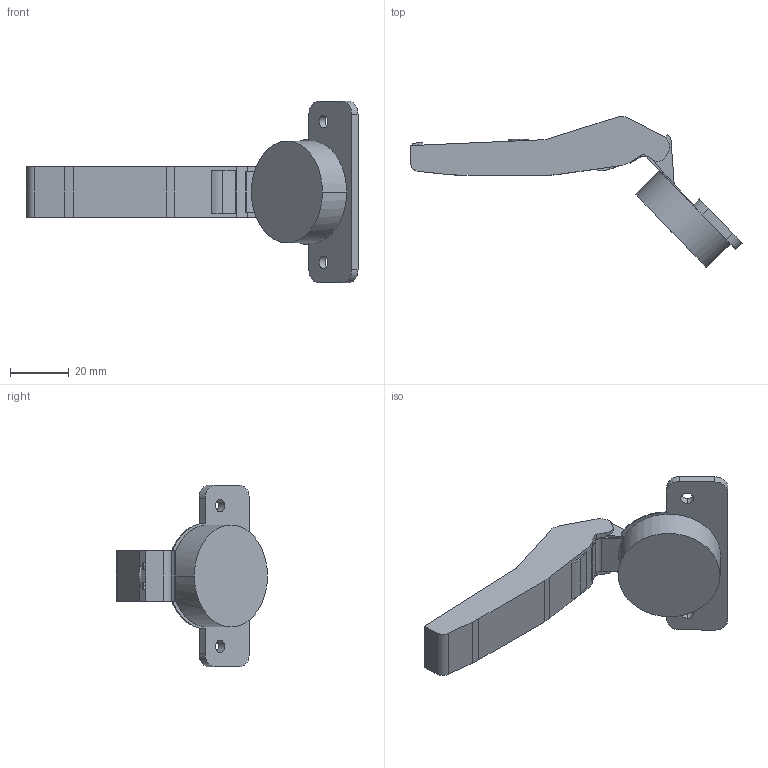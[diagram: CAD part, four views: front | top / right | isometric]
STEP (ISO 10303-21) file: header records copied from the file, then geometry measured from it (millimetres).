
FILE_DESCRIPTION (( 'STEP AP203' ), '1' );
FILE_NAME ('C82W276F-DTC 3D open.STEP', '2024-09-09T06:45:23', ( '微软用户' ), ( '微软中国' ), 'SwSTEP 2.0', 'SolidWorks 2021', '' );
FILE_SCHEMA (( 'CONFIG_CONTROL_DESIGN' ));
Length unit declared in the file: millimetre
Products named in the file (1): C82W276F-DTC 3D open
Bounding box: 113.33 x 51.56 x 61.96 mm (x, y, z)
Volume: 33843.1 mm3; surface area: 10940.3 mm2
Topology: 1 solids, 1 shells, 110 faces, 311 edges, 206 vertices
Faces by surface type: plane 56, cylinder 50, bspline 4
Entity records: 3704 total; most frequent: CARTESIAN_POINT 728, ORIENTED_EDGE 622, DIRECTION 601, EDGE_CURVE 311, VERTEX_POINT 206, AXIS2_PLACEMENT_3D 205, LINE 191, VECTOR 191
